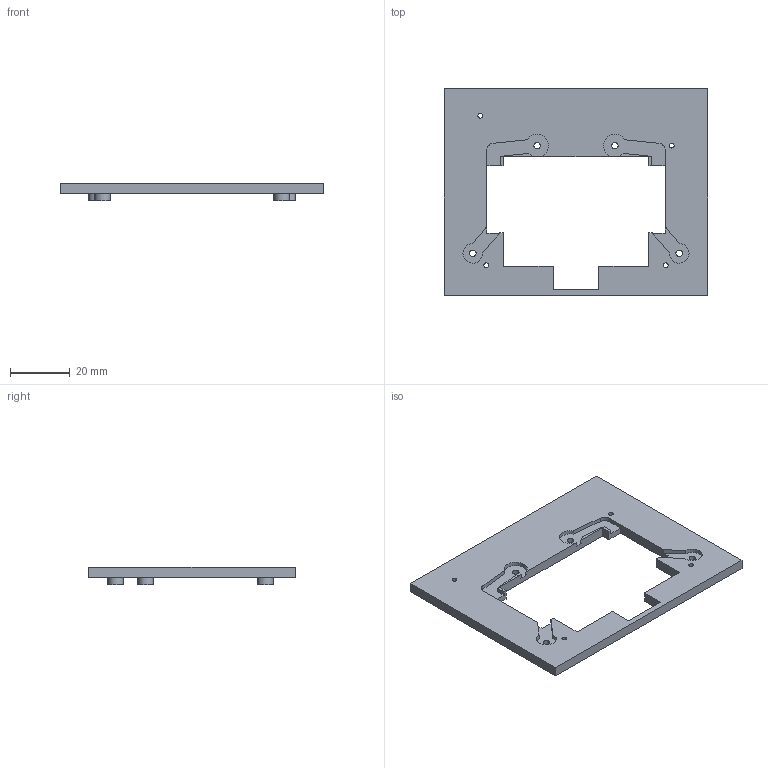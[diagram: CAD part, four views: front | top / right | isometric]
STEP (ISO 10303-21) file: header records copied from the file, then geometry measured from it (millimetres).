
FILE_DESCRIPTION(('FreeCAD Model'),'2;1');
FILE_NAME('Open CASCADE Shape Model','2026-11-12T23:07:16',('FreeCAD'),( 'FreeCAD'),'Open CASCADE STEP processor 7.8','FreeCAD','Unknown');
FILE_SCHEMA(('AUTOMOTIVE_DESIGN { 1 0 10303 214 1 1 1 1 }'));
Length unit declared in the file: millimetre
Products named in the file (1): Open CASCADE STEP translator 7.8 1
Bounding box: 88 x 69 x 5.9 mm (x, y, z)
Volume: 12978.3 mm3; surface area: 10114.6 mm2
Topology: 1 solids, 1 shells, 72 faces, 202 edges, 136 vertices
Faces by surface type: plane 50, cylinder 22
Full cylindrical faces by diameter (mm): 1.6 x4, 2.2 x4, 5.2 x4
Entity records: 2374 total; most frequent: CARTESIAN_POINT 411, ORIENTED_EDGE 404, DIRECTION 398, EDGE_CURVE 202, LINE 152, VECTOR 152, VERTEX_POINT 136, AXIS2_PLACEMENT_3D 123
